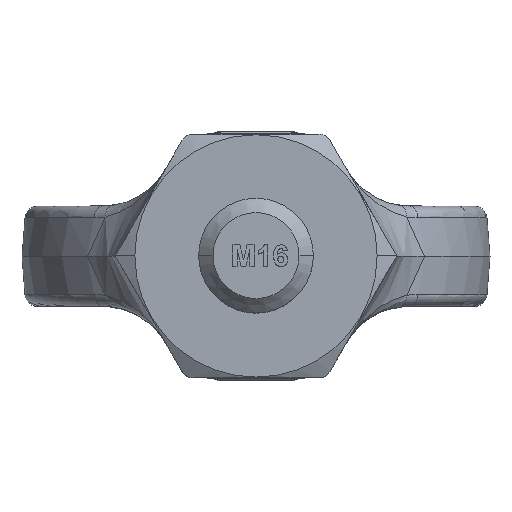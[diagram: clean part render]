
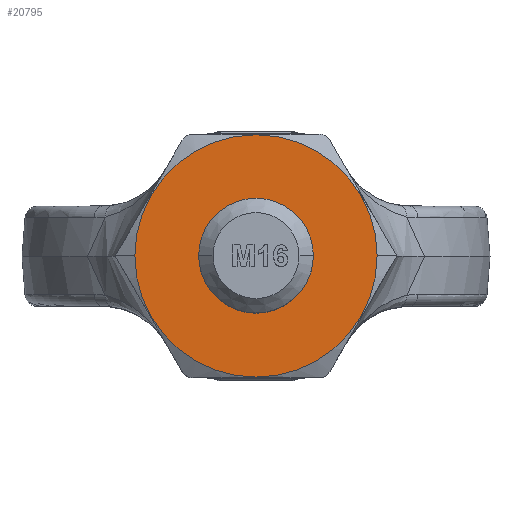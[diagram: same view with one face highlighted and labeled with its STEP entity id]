
A CAD part, top view. The second image highlights one B-rep face of the part: STEP entity #20795.
In plain terms, the highlighted planar face has unit normal (0, 0, 1).
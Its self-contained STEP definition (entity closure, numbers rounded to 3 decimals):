
#20720 = ORIENTED_EDGE ( 'NONE', *, *, #24090, .F. ) ;
#20721 = ORIENTED_EDGE ( 'NONE', *, *, #23767, .F. ) ;
#20722 = EDGE_LOOP ( 'NONE', ( #20723, #20724 ) ) ;
#20723 = ORIENTED_EDGE ( 'NONE', *, *, #20731, .T. ) ;
#20724 = ORIENTED_EDGE ( 'NONE', *, *, #23989, .T. ) ;
#20731 = EDGE_CURVE ( 'NONE', #23991, #23990, #30657, .T. ) ;
#20795 = ADVANCED_FACE ( 'NONE', ( #30885, #30884 ), #30883, .T. ) ;
#20796 = EDGE_LOOP ( 'NONE', ( #20720, #20721 ) ) ;
#23767 = EDGE_CURVE ( 'NONE', #24092, #24091, #39929, .T. ) ;
#23989 = EDGE_CURVE ( 'NONE', #23990, #23991, #40376, .T. ) ;
#23990 = VERTEX_POINT ( 'NONE', #40371 ) ;
#23991 = VERTEX_POINT ( 'NONE', #40370 ) ;
#24090 = EDGE_CURVE ( 'NONE', #24091, #24092, #40681, .T. ) ;
#24091 = VERTEX_POINT ( 'NONE', #40677 ) ;
#24092 = VERTEX_POINT ( 'NONE', #40676 ) ;
#30649 = DIRECTION ( 'NONE',  ( 1., 0., 0. ) ) ;
#30650 = DIRECTION ( 'NONE',  ( 0., 0., 1. ) ) ;
#30651 = CARTESIAN_POINT ( 'NONE',  ( 0., 0., 38. ) ) ;
#30652 = AXIS2_PLACEMENT_3D ( 'NONE', #30651, #30650, #30649 ) ;
#30657 = CIRCLE ( 'NONE', #30652, 16.905 ) ;
#30879 = DIRECTION ( 'NONE',  ( 1., 0., 0. ) ) ;
#30880 = DIRECTION ( 'NONE',  ( 0., 0., 1. ) ) ;
#30881 = CARTESIAN_POINT ( 'NONE',  ( 0., 0., 38. ) ) ;
#30882 = AXIS2_PLACEMENT_3D ( 'NONE', #30881, #30880, #30879 ) ;
#30883 = PLANE ( 'NONE',  #30882 ) ;
#30884 = FACE_OUTER_BOUND ( 'NONE', #20722, .T. ) ;
#30885 = FACE_BOUND ( 'NONE', #20796, .T. ) ;
#39926 = DIRECTION ( 'NONE',  ( 1., 0., 0. ) ) ;
#39927 = DIRECTION ( 'NONE',  ( 0., 0., 1. ) ) ;
#39928 = AXIS2_PLACEMENT_3D ( 'NONE', #39935, #39927, #39926 ) ;
#39929 = CIRCLE ( 'NONE', #39928, 8. ) ;
#39935 = CARTESIAN_POINT ( 'NONE',  ( 0., 0., 38. ) ) ;
#40370 = CARTESIAN_POINT ( 'NONE',  ( 16.905, 0., 38. ) ) ;
#40371 = CARTESIAN_POINT ( 'NONE',  ( -16.905, 0., 38. ) ) ;
#40372 = DIRECTION ( 'NONE',  ( 1., 0., 0. ) ) ;
#40373 = DIRECTION ( 'NONE',  ( 0., 0., 1. ) ) ;
#40374 = CARTESIAN_POINT ( 'NONE',  ( 0., 0., 38. ) ) ;
#40375 = AXIS2_PLACEMENT_3D ( 'NONE', #40374, #40373, #40372 ) ;
#40376 = CIRCLE ( 'NONE', #40375, 16.905 ) ;
#40676 = CARTESIAN_POINT ( 'NONE',  ( -8., 0., 38. ) ) ;
#40677 = CARTESIAN_POINT ( 'NONE',  ( 8., 0., 38. ) ) ;
#40678 = DIRECTION ( 'NONE',  ( 1., 0., 0. ) ) ;
#40679 = DIRECTION ( 'NONE',  ( 0., 0., 1. ) ) ;
#40680 = AXIS2_PLACEMENT_3D ( 'NONE', #40685, #40679, #40678 ) ;
#40681 = CIRCLE ( 'NONE', #40680, 8. ) ;
#40685 = CARTESIAN_POINT ( 'NONE',  ( 0., 0., 38. ) ) ;
